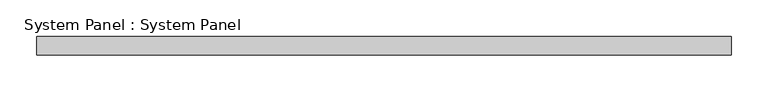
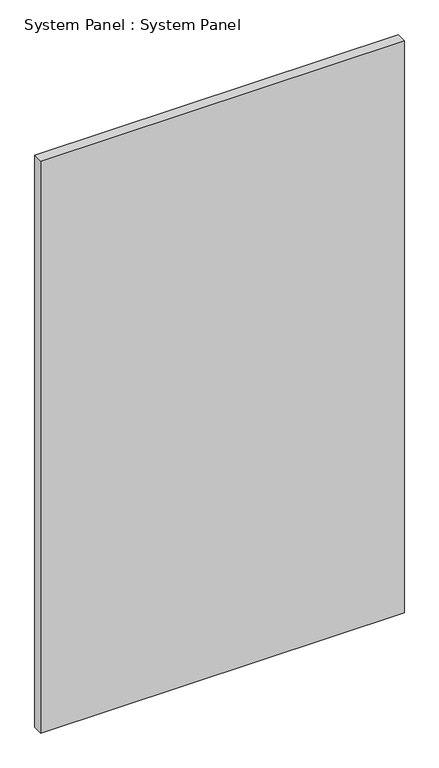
"""IFC4 building model written with IfcOpenShell, lengths in millimetres: plate geometry, System Panel : System Panel."""

from ifc_helpers import new_model, si_unit, origin, origin_with_axes, place, context, project, spatial, polyline, outline, extrude, source, transform, mapped, element, save


def system_panel_system_panel_34ce2d28(model_context):
    return source(origin(), model_context, "Body", "SweptSolid", [
        extrude(outline(polyline([(473.86875, 19.05), (-473.86875, 19.05), (-473.86875, 44.45), (473.86875, 44.45), (473.86875, 19.05)])), origin_with_axes(), (0.0, 0.0, 1.0), 1574.8),
    ])


if __name__ == "__main__":
    model = new_model("IFC4")
    model_context = context("Model", 3, world=origin())
    ifc_project = project(units=[si_unit("LENGTHUNIT", "METRE", prefix="MILLI")], contexts=[model_context])
    site = spatial("IfcSite", under=ifc_project)
    building = spatial("IfcBuilding", under=site)
    placement = place(None, origin())
    system_panel_system_panel_shape = system_panel_system_panel_34ce2d28(model_context)
    element("IfcPlate", 1, ObjectType="System Panel : System Panel", at=placement, inside=building, context=model_context, shape_type="MappedRepresentation", body=[
        mapped(system_panel_system_panel_shape, transform((0.0, 0.0, 0.0), x_axis=(1.0, 0.0, 0.0), y_axis=(0.0, 1.0, 0.0), z_axis=(0.0, 0.0, 1.0))),
    ])
    save(model, "model.ifc")
